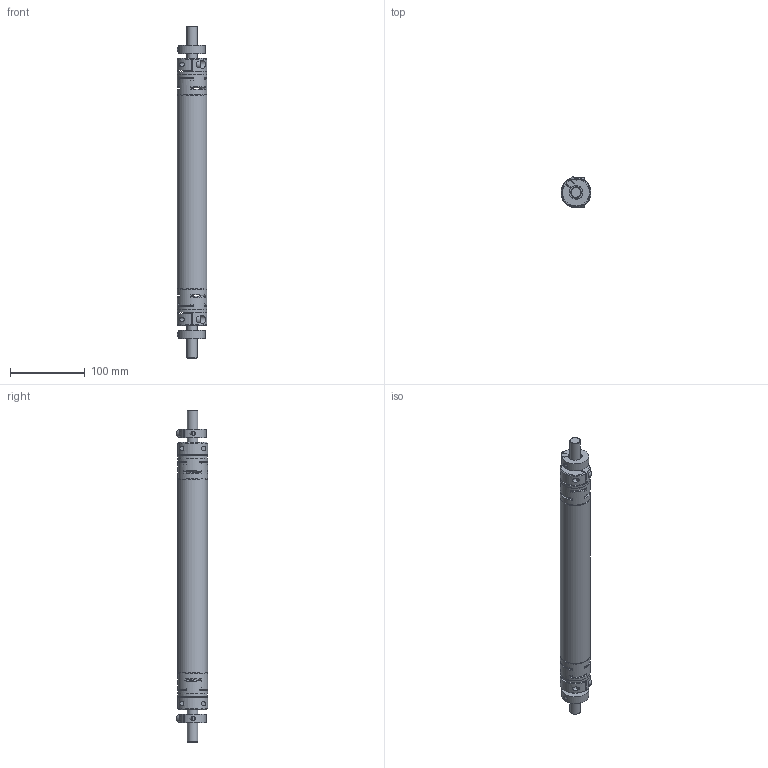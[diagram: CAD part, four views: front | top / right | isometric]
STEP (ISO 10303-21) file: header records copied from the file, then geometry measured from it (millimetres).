
FILE_DESCRIPTION(/* description */ ('Connecting shaft HLR080 - double axis distance = 450mm'),/* implementation_level */ '2;1');
FILE_NAME(/* name */ 'D:\InventorWorkspace2017\CAD\Projekte_EDEM\HLR\Zubehörteile\0242910-0450.stp',/* time_stamp */ '2019-02-13T11:21:07+01:00',/* author */ ('544672'),/* organization */ (''),/* preprocessor_version */ 'ST-DEVELOPER v16.5',/* originating_system */ 'Autodesk Inventor 2017',/* authorisation */ '');
FILE_SCHEMA (('AUTOMOTIVE_DESIGN { 1 0 10303 214 3 1 1 }'));
Length unit declared in the file: millimetre
Products named in the file (8): 0242.910-0450; 0241910-XXXX; ROTEX GS19 ZR3_Rohr_1; ROTEX GS19 ZR3_Klemmnabe D14; 0242007-02; 0241914; 0241012; 130-302345
Assembly tree (11 placements, depth 3):
  0242.910-0450
    0241910-XXXX
      ROTEX GS19 ZR3_Klemmnabe D14  x2
      ROTEX GS19 ZR3_Rohr_1
    0242007-02
      0241914  x2
      0241012  x2
      130-302345  x2
Bounding box: 40 x 41.78 x 445 mm (x, y, z)
Volume: 216947.4 mm3; surface area: 112461 mm2
Topology: 9 solids, 9 shells, 424 faces, 1188 edges, 790 vertices
Faces by surface type: cylinder 176, plane 154, cone 90, torus 4
Full cylindrical faces by diameter (mm): 3 x12, 4.917 x2, 6 x6, 6.4 x2, 6.6 x8, 10 x6, 14 x4, 18 x4, 22 x2, 34 x1, 39.4 x2, 40 x3
Entity records: 7305 total; most frequent: CARTESIAN_POINT 1526, DIRECTION 1269, ORIENTED_EDGE 1082, EDGE_CURVE 541, AXIS2_PLACEMENT_3D 540, VERTEX_POINT 383, EDGE_LOOP 294, CIRCLE 291
